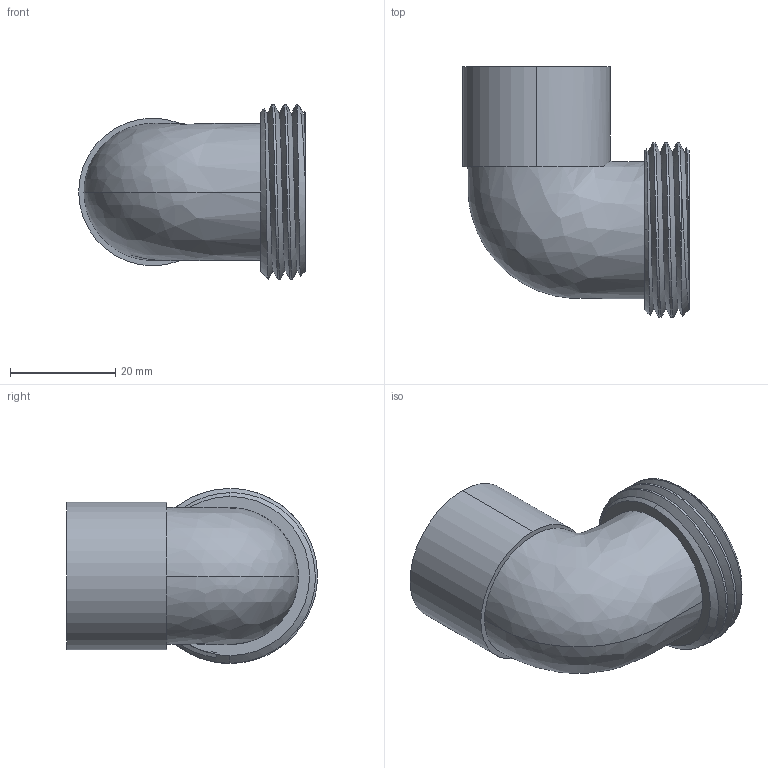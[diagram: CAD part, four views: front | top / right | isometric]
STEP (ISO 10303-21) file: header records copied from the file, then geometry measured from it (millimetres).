
FILE_DESCRIPTION (( 'STEP AP203' ), '1' );
FILE_NAME ('22x1.STEP', '2014-08-26T23:57:05', ( 'Administrators' ), ( 'JUJUMAO' ), 'SwSTEP 2.0', 'SolidWorks 2008', '' );
FILE_SCHEMA (( 'CONFIG_CONTROL_DESIGN' ));
Length unit declared in the file: millimetre
Products named in the file (1): 22x1
Bounding box: 43 x 47.58 x 33.2 mm (x, y, z)
Volume: 13841.2 mm3; surface area: 9992 mm2
Topology: 1 solids, 1 shells, 31 faces, 80 edges, 53 vertices
Faces by surface type: cylinder 10, cone 9, bspline 6, plane 6
Entity records: 2936 total; most frequent: CARTESIAN_POINT 2186, ORIENTED_EDGE 160, DIRECTION 112, EDGE_CURVE 80, VERTEX_POINT 53, AXIS2_PLACEMENT_3D 46, EDGE_LOOP 35, ADVANCED_FACE 31
